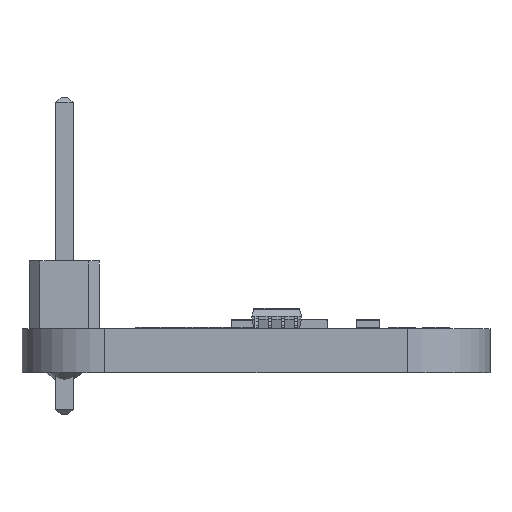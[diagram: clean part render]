
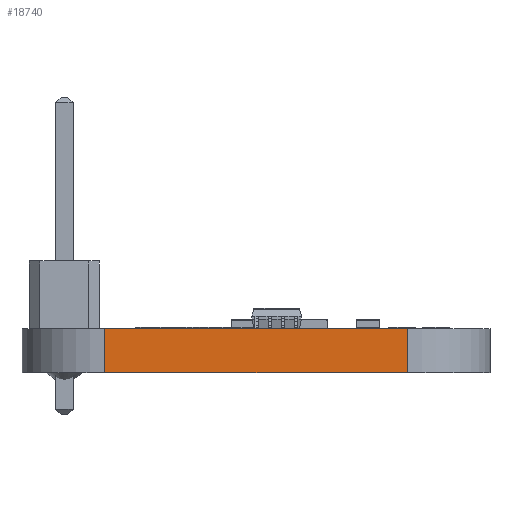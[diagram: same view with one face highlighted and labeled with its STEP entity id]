
A CAD part, left-side view. The second image highlights one B-rep face of the part: STEP entity #18740.
In plain terms, the highlighted planar face has unit normal (-1, 0, 0).
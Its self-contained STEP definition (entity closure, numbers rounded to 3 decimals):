
#538=LINE('',#25375,#1783);
#542=LINE('',#26290,#1787);
#543=LINE('',#26293,#1788);
#544=LINE('',#26294,#1789);
#1783=VECTOR('',#20646,1000.);
#1787=VECTOR('',#20762,1000.);
#1788=VECTOR('',#20763,1000.);
#1789=VECTOR('',#20764,1000.);
#3388=ORIENTED_EDGE('',*,*,#7640,.T.);
#3389=ORIENTED_EDGE('',*,*,#7641,.T.);
#3390=ORIENTED_EDGE('',*,*,#7509,.F.);
#3391=ORIENTED_EDGE('',*,*,#7642,.T.);
#7509=EDGE_CURVE('',#9671,#9672,#538,.T.);
#7640=EDGE_CURVE('',#9802,#9803,#542,.T.);
#7641=EDGE_CURVE('',#9803,#9672,#543,.F.);
#7642=EDGE_CURVE('',#9671,#9802,#544,.T.);
#9671=VERTEX_POINT('',#25376);
#9672=VERTEX_POINT('',#25377);
#9802=VERTEX_POINT('',#26291);
#9803=VERTEX_POINT('',#26292);
#11760=EDGE_LOOP('',(#3388,#3389,#3390,#3391));
#12764=FACE_BOUND('',#11760,.T.);
#13672=PLANE('',#19737);
#18740=ADVANCED_FACE('',(#12764),#13672,.F.);
#19737=AXIS2_PLACEMENT_3D('',#26289,#20760,#20761);
#20646=DIRECTION('',(0.,-1.,0.));
#20760=DIRECTION('',(1.,0.,0.));
#20761=DIRECTION('',(0.,0.,-1.));
#20762=DIRECTION('',(0.,-1.,0.));
#20763=DIRECTION('',(0.,0.,-1.));
#20764=DIRECTION('',(0.,0.,-1.));
#25375=CARTESIAN_POINT('',(-14.075,8.5,1.6));
#25376=CARTESIAN_POINT('',(-14.075,5.5,1.6));
#25377=CARTESIAN_POINT('',(-14.075,-5.5,1.6));
#26289=CARTESIAN_POINT('',(-14.075,8.5,1.6));
#26290=CARTESIAN_POINT('',(-14.075,8.5,0.));
#26291=CARTESIAN_POINT('',(-14.075,5.5,0.));
#26292=CARTESIAN_POINT('',(-14.075,-5.5,0.));
#26293=CARTESIAN_POINT('',(-14.075,-5.5,1.6));
#26294=CARTESIAN_POINT('',(-14.075,5.5,1.6));
